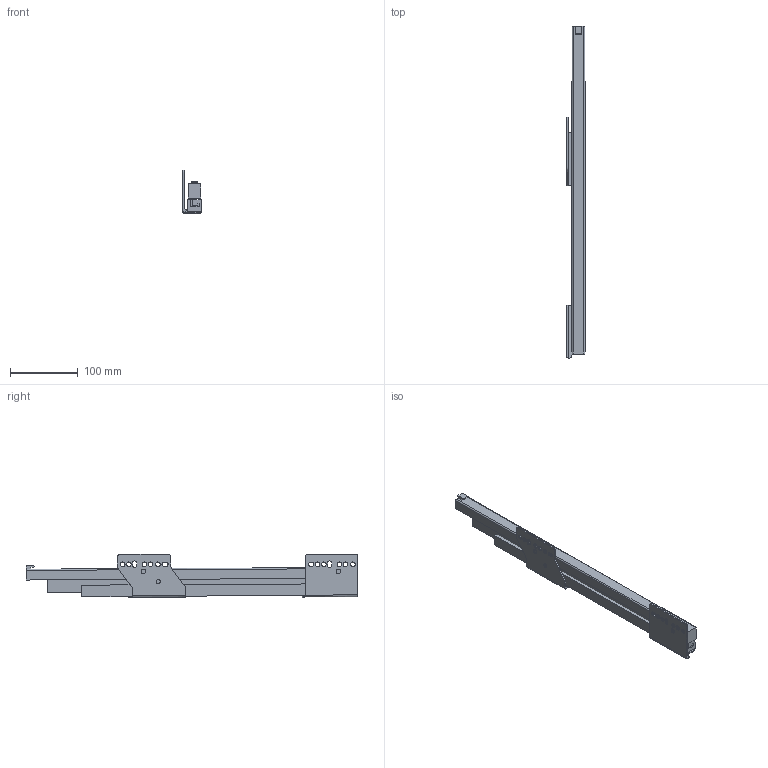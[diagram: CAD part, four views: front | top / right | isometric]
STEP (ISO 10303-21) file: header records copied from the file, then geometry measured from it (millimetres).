
FILE_DESCRIPTION (( 'STEP AP214' ), '1' );
FILE_NAME ('_IMOS_NOVA-Pro_KS_P907_LI_NL500_EB29.step', '2010-07-06T08:28:47', ( 'grass' ), ( '' ), 'SwSTEP 2.0', 'SolidWorks 2009', '' );
FILE_SCHEMA (( 'AUTOMOTIVE_DESIGN' ));
Length unit declared in the file: millimetre
Products named in the file (1): _IMOS_NOVA-Pro_KS_P907_LI_NL500_EB29
Bounding box: 26.75 x 490.35 x 64.46 mm (x, y, z)
Volume: 368190.8 mm3; surface area: 151117.9 mm2
Topology: 6 solids, 6 shells, 144 faces, 392 edges, 260 vertices
Faces by surface type: plane 89, cylinder 55
Entity records: 4691 total; most frequent: CARTESIAN_POINT 848, ORIENTED_EDGE 784, DIRECTION 765, EDGE_CURVE 392, LINE 275, VECTOR 275, VERTEX_POINT 260, AXIS2_PLACEMENT_3D 245
